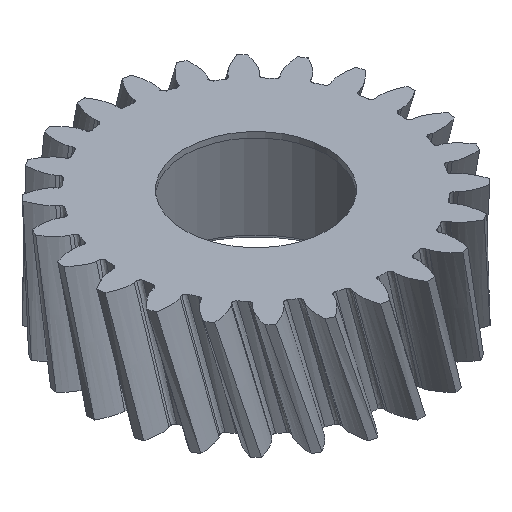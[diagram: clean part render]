
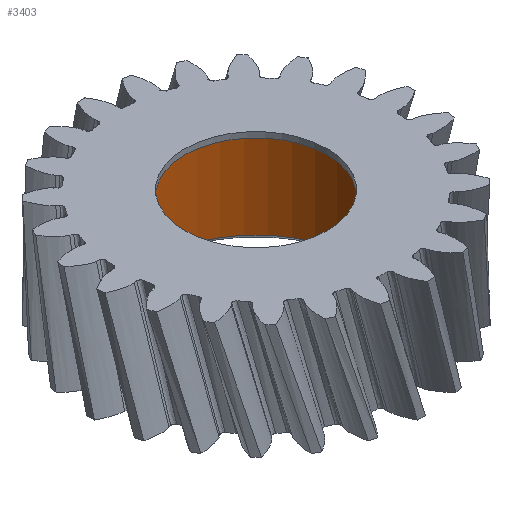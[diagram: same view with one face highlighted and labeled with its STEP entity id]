
A CAD part, isometric view. The second image highlights one B-rep face of the part: STEP entity #3403.
In plain terms, the highlighted cylindrical face has radius 7.207 mm (diameter 14.415 mm), a full revolution.
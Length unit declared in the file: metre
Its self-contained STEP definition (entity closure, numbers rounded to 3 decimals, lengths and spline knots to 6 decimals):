
#784=ORIENTED_EDGE('',*,*,#1946,.T.);
#785=ORIENTED_EDGE('',*,*,#1947,.F.);
#1946=EDGE_CURVE('',#2527,#2527,#2916,.F.);
#1947=EDGE_CURVE('',#2528,#2528,#2917,.F.);
#2527=VERTEX_POINT('',#3940);
#2528=VERTEX_POINT('',#3942);
#2916=CIRCLE('',#3615,0.007207);
#2917=CIRCLE('',#3616,0.007207);
#2969=EDGE_LOOP('',(#784));
#2970=EDGE_LOOP('',(#785));
#3173=FACE_BOUND('',#2969,.T.);
#3174=FACE_BOUND('',#2970,.T.);
#3377=CYLINDRICAL_SURFACE('',#3614,0.007207);
#3403=ADVANCED_FACE('',(#3173,#3174),#3377,.F.);
#3614=AXIS2_PLACEMENT_3D('',#3938,#3699,#3700);
#3615=AXIS2_PLACEMENT_3D('',#3939,#3701,#3702);
#3616=AXIS2_PLACEMENT_3D('',#3941,#3703,#3704);
#3699=DIRECTION('',(0.,0.,1.));
#3700=DIRECTION('',(1.,0.,0.));
#3701=DIRECTION('',(0.,0.,1.));
#3702=DIRECTION('',(1.,0.,0.));
#3703=DIRECTION('',(0.,0.,1.));
#3704=DIRECTION('',(1.,0.,0.));
#3938=CARTESIAN_POINT('',(-0.014778,0.,0.047304));
#3939=CARTESIAN_POINT('',(-0.014778,0.,0.047703));
#3940=CARTESIAN_POINT('',(-0.007571,0.,0.047703));
#3941=CARTESIAN_POINT('',(-0.014778,0.,0.055244));
#3942=CARTESIAN_POINT('',(-0.007571,0.,0.055244));
